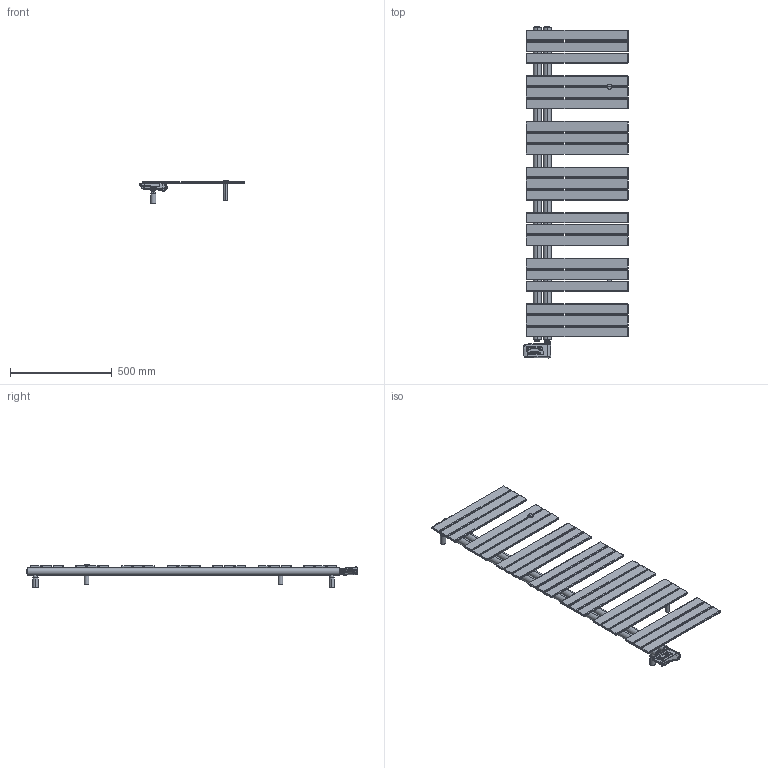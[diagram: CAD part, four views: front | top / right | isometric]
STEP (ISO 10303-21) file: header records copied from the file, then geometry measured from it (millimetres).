
FILE_DESCRIPTION((''),'2;1');
FILE_NAME('3581726100202_3D_SITO_ASM','2023-10-16T14:51:42',('PC132'),(''),'CREO PARAMETRIC BY PTC INC, 2023092','CREO PARAMETRIC BY PTC INC, 2023092','');
FILE_SCHEMA(('AUTOMOTIVE_DESIGN { 1 0 10303 214 1 1 1 1 }'));
Products named in the file (6): 2551720500003_3D_SITO; 1010181240001; 1117000001006; BOTT_GIUNTO_KELLY_RAD50X10; 1035270000042; 3581726100202_3D_SITO_ASM
Assembly tree (7 placements, depth 2):
  3581726100202_3D_SITO_ASM
    2551720500003_3D_SITO
    1010181240001  x3
    1117000001006
    BOTT_GIUNTO_KELLY_RAD50X10
    1035270000042
Bounding box: 511 x 1630.49 x 115.5 mm (x, y, z)
Volume: 8899943.4 mm3; surface area: 1741780.7 mm2
Topology: 32 solids, 36 shells, 1705 faces, 4228 edges, 2604 vertices
Faces by surface type: plane 626, cylinder 578, bspline 345, torus 69, cone 57, extrusion 18, sphere 12
Entity records: 122591 total; most frequent: CARTESIAN_POINT 68556, ORIENTED_EDGE 8025, DIRECTION 7198, PRESENTATION_STYLE_ASSIGNMENT 4105, EDGE_CURVE 4033, STYLED_ITEM 3977, CURVE_STYLE 3947, AXIS2_PLACEMENT_3D 2614
